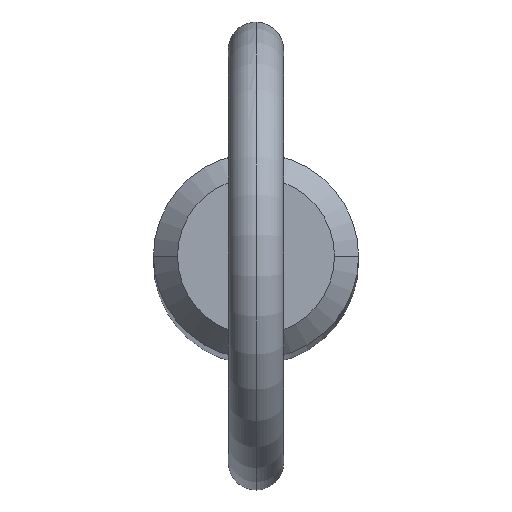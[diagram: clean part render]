
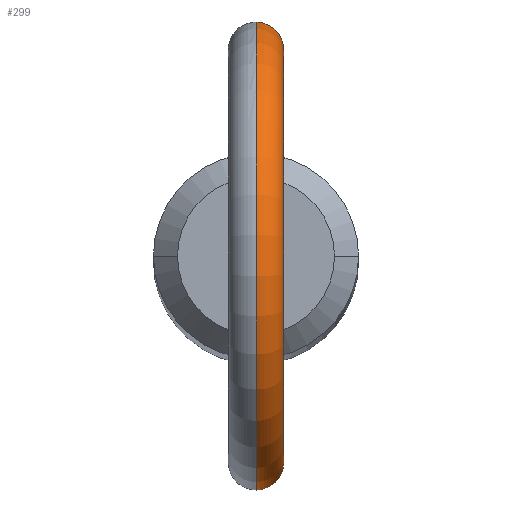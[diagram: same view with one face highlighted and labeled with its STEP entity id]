
A CAD part, top view. The second image highlights one B-rep face of the part: STEP entity #299.
In plain terms, the highlighted toroidal (fillet/blend) face has major radius 11.2 mm and minor radius 1.5 mm.
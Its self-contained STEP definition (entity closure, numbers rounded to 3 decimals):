
#2 = CIRCLE ( 'NONE', #178, 12.7 ) ;
#9 = CARTESIAN_POINT ( 'NONE',  ( 0., -5.55, 156.177 ) ) ;
#16 = CARTESIAN_POINT ( 'NONE',  ( 0.107, 5.55, 156.177 ) ) ;
#18 = DIRECTION ( 'NONE',  ( 1., 0., 0. ) ) ;
#20 = CARTESIAN_POINT ( 'NONE',  ( 0.933, 5.472, 159.204 ) ) ;
#23 = CARTESIAN_POINT ( 'NONE',  ( 1.294, 5.398, 158.685 ) ) ;
#25 = VERTEX_POINT ( 'NONE', #169 ) ;
#34 = CARTESIAN_POINT ( 'NONE',  ( 1.5, -5.343, 157.654 ) ) ;
#45 = DIRECTION ( 'NONE',  ( 0., 0., -1. ) ) ;
#54 = CARTESIAN_POINT ( 'NONE',  ( 0., 5.55, 156.177 ) ) ;
#57 = CARTESIAN_POINT ( 'NONE',  ( 1.485, 5.348, 158.078 ) ) ;
#64 = CARTESIAN_POINT ( 'NONE',  ( 0.81, 5.494, 156.395 ) ) ;
#66 = CARTESIAN_POINT ( 'NONE',  ( 0.421, -5.535, 156.232 ) ) ;
#68 = CARTESIAN_POINT ( 'NONE',  ( 0.941, -5.471, 159.207 ) ) ;
#70 = CARTESIAN_POINT ( 'NONE',  ( 0.515, -5.527, 159.522 ) ) ;
#73 = EDGE_CURVE ( 'NONE', #164, #307, #217, .T. ) ;
#79 = CARTESIAN_POINT ( 'NONE',  ( 0., 0., 167.6 ) ) ;
#88 = AXIS2_PLACEMENT_3D ( 'NONE', #262, #18, #340 ) ;
#100 = CARTESIAN_POINT ( 'NONE',  ( 0., -5.55, 159.645 ) ) ;
#103 = CARTESIAN_POINT ( 'NONE',  ( 1.26, -5.407, 156.843 ) ) ;
#108 = CARTESIAN_POINT ( 'NONE',  ( 0., -5.55, 156.177 ) ) ;
#130 = ORIENTED_EDGE ( 'NONE', *, *, #423, .T. ) ;
#138 = CARTESIAN_POINT ( 'NONE',  ( 0.422, 5.537, 159.578 ) ) ;
#139 = CARTESIAN_POINT ( 'NONE',  ( 1.393, 5.372, 157.133 ) ) ;
#148 = CARTESIAN_POINT ( 'NONE',  ( 0.523, -5.526, 156.266 ) ) ;
#151 = CARTESIAN_POINT ( 'NONE',  ( 0.977, -5.464, 156.532 ) ) ;
#153 = CARTESIAN_POINT ( 'NONE',  ( 0.786, -5.497, 159.357 ) ) ;
#164 = VERTEX_POINT ( 'NONE', #265 ) ;
#169 = CARTESIAN_POINT ( 'NONE',  ( 0., -5.55, 159.645 ) ) ;
#178 = AXIS2_PLACEMENT_3D ( 'NONE', #446, #476, #479 ) ;
#187 = ORIENTED_EDGE ( 'NONE', *, *, #73, .F. ) ;
#188 = CARTESIAN_POINT ( 'NONE',  ( 1.455, -5.356, 157.338 ) ) ;
#189 = EDGE_CURVE ( 'NONE', #307, #25, #438, .T. ) ;
#194 = EDGE_LOOP ( 'NONE', ( #187, #130, #320, #393 ) ) ;
#207 = TOROIDAL_SURFACE ( 'NONE', #242, 11.2, 1.5 ) ;
#213 = CARTESIAN_POINT ( 'NONE',  ( 1.486, 5.348, 157.438 ) ) ;
#215 = EDGE_CURVE ( 'NONE', #25, #365, #228, .T. ) ;
#217 = B_SPLINE_CURVE_WITH_KNOTS ( 'NONE', 3,
 ( #54, #16, #292, #512, #219, #64, #437, #514, #470, #506, #139, #213, #429, #57, #434, #23, #390, #387, #20, #467, #383, #138, #472, #504 ),
 .UNSPECIFIED., .F., .F.,
 ( 4, 2, 2, 2, 2, 2, 2, 2, 2, 2, 2, 4 ),
 ( 0.001, 0.001, 0.001, 0.002, 0.002, 0.002, 0.003, 0.004, 0.004, 0.005, 0.005, 0.006 ),
 .UNSPECIFIED. ) ;
#219 = CARTESIAN_POINT ( 'NONE',  ( 0.522, 5.526, 156.265 ) ) ;
#228 = B_SPLINE_CURVE_WITH_KNOTS ( 'NONE', 3,
 ( #100, #345, #478, #275, #70, #153, #68, #349, #358, #480, #234, #309, #34, #402, #188, #395, #103, #315, #151, #270, #442, #148, #66, #449, #280, #108 ),
 .UNSPECIFIED., .F., .F.,
 ( 4, 2, 2, 2, 2, 2, 2, 2, 2, 2, 2, 2, 4 ),
 ( 0.005, 0.005, 0.005, 0.006, 0.006, 0.007, 0.007, 0.008, 0.008, 0.009, 0.009, 0.009, 0.01 ),
 .UNSPECIFIED. ) ;
#234 = CARTESIAN_POINT ( 'NONE',  ( 1.486, -5.347, 158.074 ) ) ;
#237 = CARTESIAN_POINT ( 'NONE',  ( 0., 5.55, 159.645 ) ) ;
#242 = AXIS2_PLACEMENT_3D ( 'NONE', #79, #285, #45 ) ;
#262 = CARTESIAN_POINT ( 'NONE',  ( 0., 0., 167.6 ) ) ;
#265 = CARTESIAN_POINT ( 'NONE',  ( 0., 5.55, 156.177 ) ) ;
#270 = CARTESIAN_POINT ( 'NONE',  ( 0.807, -5.492, 156.406 ) ) ;
#275 = CARTESIAN_POINT ( 'NONE',  ( 0.417, -5.535, 159.567 ) ) ;
#280 = CARTESIAN_POINT ( 'NONE',  ( 0.107, -5.55, 156.177 ) ) ;
#285 = DIRECTION ( 'NONE',  ( 1., 0., 0. ) ) ;
#292 = CARTESIAN_POINT ( 'NONE',  ( 0.212, 5.547, 156.188 ) ) ;
#299 = ADVANCED_FACE ( 'NONE', ( #319 ), #207, .T. ) ;
#307 = VERTEX_POINT ( 'NONE', #237 ) ;
#309 = CARTESIAN_POINT ( 'NONE',  ( 1.503, -5.343, 157.759 ) ) ;
#315 = CARTESIAN_POINT ( 'NONE',  ( 1.055, -5.449, 156.605 ) ) ;
#319 = FACE_OUTER_BOUND ( 'NONE', #194, .T. ) ;
#320 = ORIENTED_EDGE ( 'NONE', *, *, #215, .F. ) ;
#340 = DIRECTION ( 'NONE',  ( 0., 0., -1. ) ) ;
#345 = CARTESIAN_POINT ( 'NONE',  ( 0.106, -5.55, 159.645 ) ) ;
#349 = CARTESIAN_POINT ( 'NONE',  ( 1.194, -5.422, 158.871 ) ) ;
#358 = CARTESIAN_POINT ( 'NONE',  ( 1.295, -5.397, 158.682 ) ) ;
#365 = VERTEX_POINT ( 'NONE', #9 ) ;
#383 = CARTESIAN_POINT ( 'NONE',  ( 0.694, 5.507, 159.414 ) ) ;
#387 = CARTESIAN_POINT ( 'NONE',  ( 1.003, 5.459, 159.125 ) ) ;
#390 = CARTESIAN_POINT ( 'NONE',  ( 1.194, 5.422, 158.872 ) ) ;
#393 = ORIENTED_EDGE ( 'NONE', *, *, #189, .F. ) ;
#395 = CARTESIAN_POINT ( 'NONE',  ( 1.363, -5.38, 157.034 ) ) ;
#402 = CARTESIAN_POINT ( 'NONE',  ( 1.477, -5.35, 157.444 ) ) ;
#423 = EDGE_CURVE ( 'NONE', #164, #365, #2, .T. ) ;
#429 = CARTESIAN_POINT ( 'NONE',  ( 1.509, 5.341, 157.653 ) ) ;
#434 = CARTESIAN_POINT ( 'NONE',  ( 1.44, 5.36, 158.288 ) ) ;
#437 = CARTESIAN_POINT ( 'NONE',  ( 0.984, 5.464, 156.524 ) ) ;
#438 = CIRCLE ( 'NONE', #88, 9.7 ) ;
#442 = CARTESIAN_POINT ( 'NONE',  ( 0.716, -5.504, 156.352 ) ) ;
#446 = CARTESIAN_POINT ( 'NONE',  ( 0., 0., 167.6 ) ) ;
#449 = CARTESIAN_POINT ( 'NONE',  ( 0.213, -5.547, 156.188 ) ) ;
#467 = CARTESIAN_POINT ( 'NONE',  ( 0.779, 5.496, 159.348 ) ) ;
#470 = CARTESIAN_POINT ( 'NONE',  ( 1.251, 5.407, 156.85 ) ) ;
#472 = CARTESIAN_POINT ( 'NONE',  ( 0.213, 5.55, 159.645 ) ) ;
#476 = DIRECTION ( 'NONE',  ( 1., 0., 0. ) ) ;
#478 = CARTESIAN_POINT ( 'NONE',  ( 0.214, -5.547, 159.628 ) ) ;
#479 = DIRECTION ( 'NONE',  ( 0., 0., -1. ) ) ;
#480 = CARTESIAN_POINT ( 'NONE',  ( 1.44, -5.36, 158.286 ) ) ;
#504 = CARTESIAN_POINT ( 'NONE',  ( 0., 5.55, 159.645 ) ) ;
#506 = CARTESIAN_POINT ( 'NONE',  ( 1.352, 5.383, 157.035 ) ) ;
#512 = CARTESIAN_POINT ( 'NONE',  ( 0.419, 5.535, 156.232 ) ) ;
#514 = CARTESIAN_POINT ( 'NONE',  ( 1.19, 5.421, 156.762 ) ) ;
